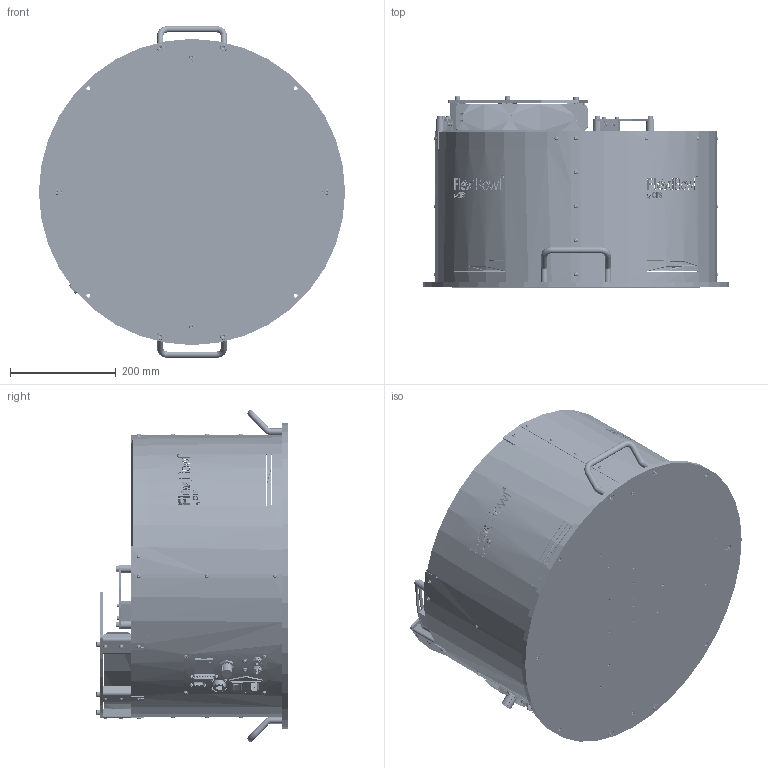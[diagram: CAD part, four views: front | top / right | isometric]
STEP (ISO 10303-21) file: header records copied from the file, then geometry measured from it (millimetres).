
FILE_DESCRIPTION (( 'STEP AP214' ), '1' );
FILE_NAME ('FB500C Quick emptying.STEP', '2021-09-09T12:46:58', ( '' ), ( '' ), 'SwSTEP 2.0', 'SolidWorks 2020', '' );
FILE_SCHEMA (( 'AUTOMOTIVE_DESIGN' ));
Length unit declared in the file: millimetre
Products named in the file (86): Copia di 39-01-2025^CE000302; CM000008_001; PD001740; CE000030; Copia di 15 poli femmina^CE000302; CM000021; CM000170; CM000017; PD001112; PD001647; PD001360_FB500; CM000026; PD000043; CE000325; Copia di connector_a-ds_25_pp-f^CE000302; CM000024; CM000027; CM000008_003; CM000015_001; CM000478; PD001736; PD001642; PD000709; CM000008_004; PD001356; CM000728; CE000151; CE000326; PD001109; PD001649; CM000048; CM000686_001; CE000013; CM000008_005; PD001117; PD001750; CE000302; CM000045; CE000316; Copia di Connettore te 2 poli - Copia^CE000302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
Assembly tree (211 placements, depth 4):
  FB500C Quick emptying
    CM000032  x4
    CM000031  x7
    CM000048  x22
    CM000170  x4
    CM000050  x3
    CM000478  x6
    CM000166  x12
    CM000642  x4
    CM000027  x4
    CM000091  x2
    CM000021  x10
    CM000024  x10
    CM000026  x10
    CM000025  x4
    CM000043  x2
    CM000006  x4
    CM000051  x4
    PD001071
    CM000001  x2
    PD001440  x4
    PD001740
    PD001736  x2
    PD001642
    PD000709
    PD000031
    PD001106
    PD001109  x3
    PD001112
    PD001059
    PD000043  x4
    PD001118  x2
    PD001119  x2
    PD001120
    PD001117
    PD001360_FB500
    CE000007
    CM000015  x2
      CM000015_001
      CM000015_002
    CE000013  x2
    CE000005
    CM000008
      CM000008_001
      CM000008_003  x2
      CM000008_002
      CM000008_004
      CM000008_005
    CE000302
      Copia di connector_a-ds_25_pp-f^CE000302
      Copia di 15 poli femmina^CE000302
      Copia di connector_amet-15rs^CE000302
      Copia di Connettore te 2 poli - Copia^CE000302
      Copia di 39-01-2025^CE000302
    CE000030
    CE000316
    CM000686
      CM000686_001
      CM000686_002
    CE000325
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Bounding box: 580 x 362 x 628.99 mm (x, y, z)
Volume: 7234681.4 mm3; surface area: 3544663.9 mm2
Topology: 227 solids, 229 shells, 11517 faces, 29329 edges, 18729 vertices
Faces by surface type: plane 5853, cylinder 2788, cone 1343, bspline 856, torus 622, sphere 55
Entity records: 323666 total; most frequent: CARTESIAN_POINT 91338, ORIENTED_EDGE 41078, DIRECTION 37965, EDGE_CURVE 20539, VERTEX_POINT 13620, AXIS2_PLACEMENT_3D 13065, VECTOR 11835, LINE 11835
